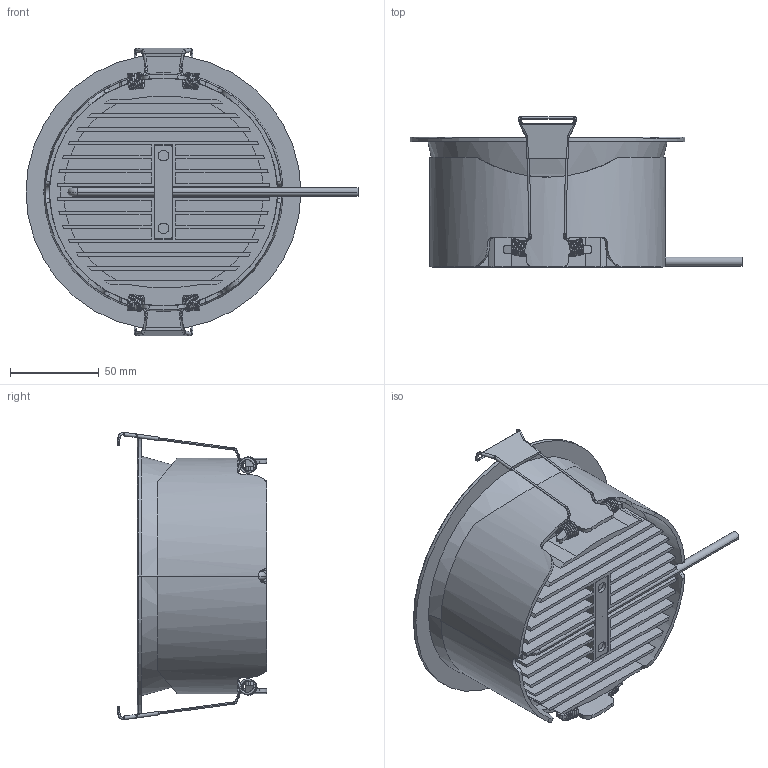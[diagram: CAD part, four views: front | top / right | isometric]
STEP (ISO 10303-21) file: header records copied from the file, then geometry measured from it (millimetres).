
FILE_DESCRIPTION((''),'2;1');
FILE_NAME('ASM0001_ASM','2026-06-26T17:13:56',('Administrator'),(''),'CREO PARAMETRIC BY PTC INC, 2021164','CREO PARAMETRIC BY PTC INC, 2021164','');
FILE_SCHEMA(('CONFIG_CONTROL_DESIGN','SHAPE_APPEARANCE_LAYERS_GROUPS'));
Length unit declared in the file: millimetre
Products named in the file (7): PRT0001; PRT0003; PRT0005; PRT0006; PRT0004; PRT0007; ASM0001_ASM
Assembly tree (6 placements, depth 2):
  ASM0001_ASM
    PRT0001
    PRT0003
    PRT0005
    PRT0006
    PRT0004
    PRT0007
Bounding box: 187.14 x 84.5 x 161.91 mm (x, y, z)
Volume: 419652.8 mm3; surface area: 182854.8 mm2
Topology: 6 solids, 6 shells, 438 faces, 1183 edges, 766 vertices
Faces by surface type: cylinder 195, plane 159, torus 58, bspline 20, cone 6
Entity records: 26864 total; most frequent: CARTESIAN_POINT 9430, ORIENTED_EDGE 2366, DIRECTION 2345, PRESENTATION_STYLE_ASSIGNMENT 1559, STYLED_ITEM 1531, CURVE_STYLE 1183, EDGE_CURVE 1183, AXIS2_PLACEMENT_3D 881
